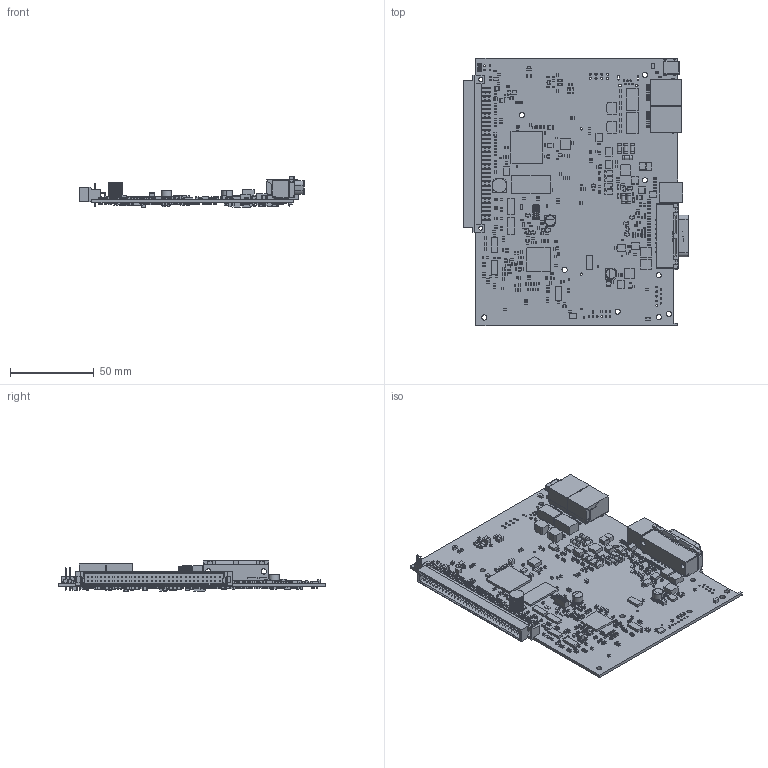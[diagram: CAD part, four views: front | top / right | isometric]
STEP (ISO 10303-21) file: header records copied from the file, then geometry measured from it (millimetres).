
FILE_DESCRIPTION(('Open CASCADE Model'),'2;1');
FILE_NAME('Open CASCADE Shape Model','2017-06-21T13:48:02',('Author'),( 'Open CASCADE'),'Open CASCADE STEP processor 6.8','Open CASCADE 6.8' ,'Unknown');
FILE_SCHEMA(('AUTOMOTIVE_DESIGN { 1 0 10303 214 1 1 1 1 }'));
Length unit declared in the file: millimetre
Products named in the file (823): PCB; Board; V64; -1967694096; Extruded; 1253276552; V63; 1253276688; 1253276824; V62; V59; 1208604496; 1208604360; V56; 1295743800; -1967694232; R425; 1253273696; 1253273832; U9; 1253259416; R414; -1967693824; -1967693688; C331; 1204159744; 1204159880; C330; C329; C328; C327; C326; C325; C319; 1253261728; 1253261864; C316; V53; sot23-3; V40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
Assembly tree (2438 placements, depth 4):
  PCB
    Board
    V64
      -1967694096
        Extruded
      1253276552
        Extruded
    V63
      1253276688
        Extruded
      1253276824
        Extruded
    V62
      -1967694096
        Extruded
      1253276552
        Extruded
    V59
      1208604496
        Extruded
      1208604360
        Extruded
    V56
      1295743800
        Extruded
      -1967694232
        Extruded
    R425
      1253273696
        Extruded
      1253273832  x2
        Extruded
    U9
      1253259416
        Extruded
    R414
      -1967693824  x2
        Extruded
      -1967693688
        Extruded
    C331
      1204159744
        Extruded
      1204159880  x2
        Extruded
    C330
      1204159744
        Extruded
      1204159880  x2
        Extruded
    C329
      1253273696
        Extruded
      1253273832  x2
        Extruded
    C328
      1253273696
        Extruded
      1253273832  x2
        Extruded
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Bounding box: 134.16 x 160.1 x 18.11 mm (x, y, z)
Volume: 58131.6 mm3; surface area: 75171 mm2
Topology: 1711 solids, 1711 shells, 15345 faces, 33986 edges, 22060 vertices
Faces by surface type: plane 13732, cylinder 1321, sphere 248, cone 20, bspline 16, torus 8
Full cylindrical faces by diameter (mm): 0.914 x19, 0.94 x1, 1.016 x90, 1.295 x14, 1.3 x15, 1.346 x2, 1.6 x2, 1.702 x2, 2.4 x18, 2.794 x2, 3 x2, 3.048 x4, 3.099 x6, 3.2 x3, 3.302 x4, 3.6 x2
Entity records: 130235 total; most frequent: DIRECTION 20281, CARTESIAN_POINT 19553, ORIENTED_EDGE 16236, EDGE_CURVE 8118, LINE 7135, VECTOR 7135, AXIS2_PLACEMENT_3D 6573, VERTEX_POINT 5312
